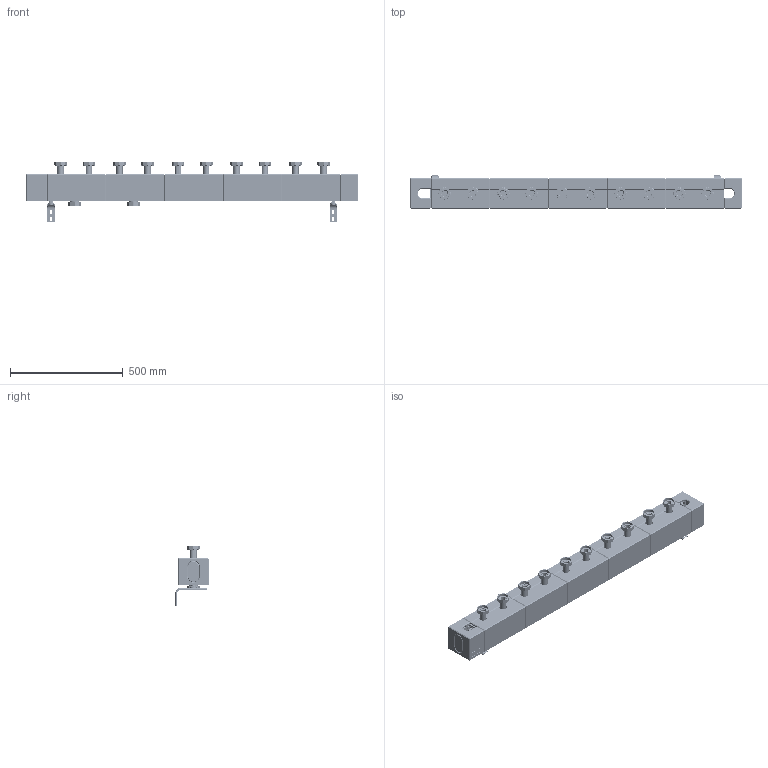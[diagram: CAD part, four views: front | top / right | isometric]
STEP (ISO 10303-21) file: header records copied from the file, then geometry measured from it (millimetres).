
FILE_DESCRIPTION (( 'STEP AP214' ), '1' );
FILE_NAME ('HSM_ProFusion_125-5_Multifunkcyjny_rozdzielacz_79625_0_3D_AFRISO.STEP', '2025-11-18T14:05:16', ( '' ), ( '' ), 'SwSTEP 2.0', 'SolidWorks 2023', '' );
FILE_SCHEMA (( 'AUTOMOTIVE_DESIGN' ));
Length unit declared in the file: millimetre
Products named in the file (46): 05 00 410237__X_DCberwurfmutter G1 1_2 SW52-8kt MS_3; Einsteckstutzen_lang_sekund_X_E4r _Baugruppe; 05 01 001311_W_X_E4rmed_X_E4mmung HSM 125; Blindeinsatz_Enkappe; 801 030 3002_O-Ring _X_F830,0x3,0mm EPDM 70_X_B15 pe_rox; 05 01 000684_Tr_X_E4gerplatte neutral wei_X_DF (60x2_0); 05_01_000415_MUTTER_G1_1-2; 05 01 001288_Einsteckstutzen lang G1 1_2 HSM; ISO 4032-M8-10_Sechskantmuttern_2; ISO 4032-M8-10_Sechskantmuttern; 05 01 000794_Tr_X_E4gerplatte wei_X_DF LOGO AFRISO; Translationsteil_1; Segment rechts_Baugruppe; Segment mitte_Baugruppe; Blindeinsatz; Segment rechts_Baugruppe_3; HSM_ProFusion_125-5_Multifunkcyjny_rozdzielacz_79625_0_3D_AFRISO; 1748427030; Einsteckstutzen prim_X_E4r_Baugruppe; 907380 8020_LKS ISO 7380-2 M8X20; 05 01 001285_Einsteckstutzen G1 1_2; 05 01 001311_W_X_E4rmed_X_E4mmung HSM 125 R; 05 01 001312_D_X_E4mmung_Verteiler_Endkappe_rechts; 05 01 001291_Haltewinkel 82x140; 05 00 410237__X_DCberwurfmutter G1 1_2 SW52-8kt MS; 05 01 001312_W_X_E4rmed_X_E4mmung HSM Endkappen; 05 01 001312_D_X_E4mmung_Verteiler_Endkappe links; Segment rechts_Baugruppe_2; Verschraubungen Verteiler_Baugruppe; 05 01 001278_Wandhalter HSM; Segment links_Baugruppe; 05 01 001287_Absteckfeder _X_D833; Translationsteil_0_AEI Logo; Einsteckstutzen prim_X_E4r_Baugruppe_2; 801 030 3002_O-Ring _X_F830,0x3,0mm EPDM 70_X_B15 pe_rox_2; 05 01 000938_Absteckfeder _X_D828; 05 01 001291_Blechwinkel Wandhalter HSM; 907380 8020_LKS ISO 7380-2 M8X20_4; 05 00 410237__X_DCberwurfmutter G1 1_2 SW52-8kt MS_2; 801 000 0332_O-Ring _X_F826x3,0mm EPDM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
Assembly tree (62 placements, depth 5):
  HSM_ProFusion_125-5_Multifunkcyjny_rozdzielacz_79625_0_3D_AFRISO
    Verteiler HSM 125 -5_Baugruppe
      Segment links_Baugruppe
        Einsteckstutzen_lang_sekund_X_E4r _Baugruppe  x2
          801 000 0332_O-Ring _X_F826x3,0mm EPDM
          05 00 410237__X_DCberwurfmutter G1 1_2 SW52-8kt MS
          05 01 000938_Absteckfeder _X_D828
          05 01 001288_Einsteckstutzen lang G1 1_2 HSM
        Einsteckstutzen prim_X_E4r_Baugruppe
          801 030 3002_O-Ring _X_F830,0x3,0mm EPDM 70_X_B15 pe_rox
          05 00 410237__X_DCberwurfmutter G1 1_2 SW52-8kt MS_2
          05 01 001287_Absteckfeder _X_D833
          05 01 001285_Einsteckstutzen G1 1_2
      Segment mitte_Baugruppe
        05_01_000415_MUTTER_G1_1-2
        Einsteckstutzen_lang_sekund_X_E4r _Baugruppe  x2
          801 000 0332_O-Ring _X_F826x3,0mm EPDM
          05 00 410237__X_DCberwurfmutter G1 1_2 SW52-8kt MS
          05 01 000938_Absteckfeder _X_D828
          05 01 001288_Einsteckstutzen lang G1 1_2 HSM
        Einsteckstutzen prim_X_E4r_Baugruppe_2
          801 030 3002_O-Ring _X_F830,0x3,0mm EPDM 70_X_B15 pe_rox_2
          05 00 410237__X_DCberwurfmutter G1 1_2 SW52-8kt MS_3
          05 01 001287_Absteckfeder _X_D833
          05 01 001285_Einsteckstutzen G1 1_2
      Segment rechts_Baugruppe
        Einsteckstutzen_lang_sekund_X_E4r _Baugruppe  x2
          801 000 0332_O-Ring _X_F826x3,0mm EPDM
          05 00 410237__X_DCberwurfmutter G1 1_2 SW52-8kt MS
          05 01 000938_Absteckfeder _X_D828
          05 01 001288_Einsteckstutzen lang G1 1_2 HSM
      Segment rechts_Baugruppe_2
        Einsteckstutzen_lang_sekund_X_E4r _Baugruppe  x2
          801 000 0332_O-Ring _X_F826x3,0mm EPDM
          05 00 410237__X_DCberwurfmutter G1 1_2 SW52-8kt MS
          05 01 000938_Absteckfeder _X_D828
          05 01 001288_Einsteckstutzen lang G1 1_2 HSM
      Segment rechts_Baugruppe_3
        Einsteckstutzen_lang_sekund_X_E4r _Baugruppe  x2
          801 000 0332_O-Ring _X_F826x3,0mm EPDM
          05 00 410237__X_DCberwurfmutter G1 1_2 SW52-8kt MS
          05 01 000938_Absteckfeder _X_D828
          05 01 001288_Einsteckstutzen lang G1 1_2 HSM
      05 01 001278_Wandhalter HSM  x2
      05 01 001291_Blechwinkel Wandhalter HSM
        05 01 001291_Haltewinkel 82x140  x2
      05 01 001311_W_X_E4rmed_X_E4mmung HSM 125  x5
        Blindeinsatz
          Blindeinsatz
          1748427030
        05 01 001311_W_X_E4rmed_X_E4mmung HSM 125
        05 01 001311_W_X_E4rmed_X_E4mmung HSM 125 R
      05 01 001312_W_X_E4rmed_X_E4mmung HSM Endkappen
        05 01 001312_D_X_E4mmung_Verteiler_Endkappe links
          05 01 001312_D_X_E4mmung_Verteiler_Endkappe links
          Blindeinsatz_Enkappe
        05 01 001312_D_X_E4mmung_Verteiler_Endkappe_rechts
          05 01 001312_D_X_E4mmung_Verteiler_Endkappe_rechts
          Blindeinsatz_Enkappe_2
      Verschraubungen Verteiler_Baugruppe
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Bounding box: 1471 x 147.55 x 269.82 mm (x, y, z)
Volume: 14036525.5 mm3; surface area: 2073880.5 mm2
Topology: 90 solids, 90 shells, 9907 faces, 25457 edges, 16085 vertices
Faces by surface type: plane 4780, cylinder 2748, bspline 1579, cone 749, torus 51
Entity records: 143716 total; most frequent: CARTESIAN_POINT 54797, ORIENTED_EDGE 19372, DIRECTION 16517, EDGE_CURVE 9686, VERTEX_POINT 6152, LINE 5747, VECTOR 5747, AXIS2_PLACEMENT_3D 5385
